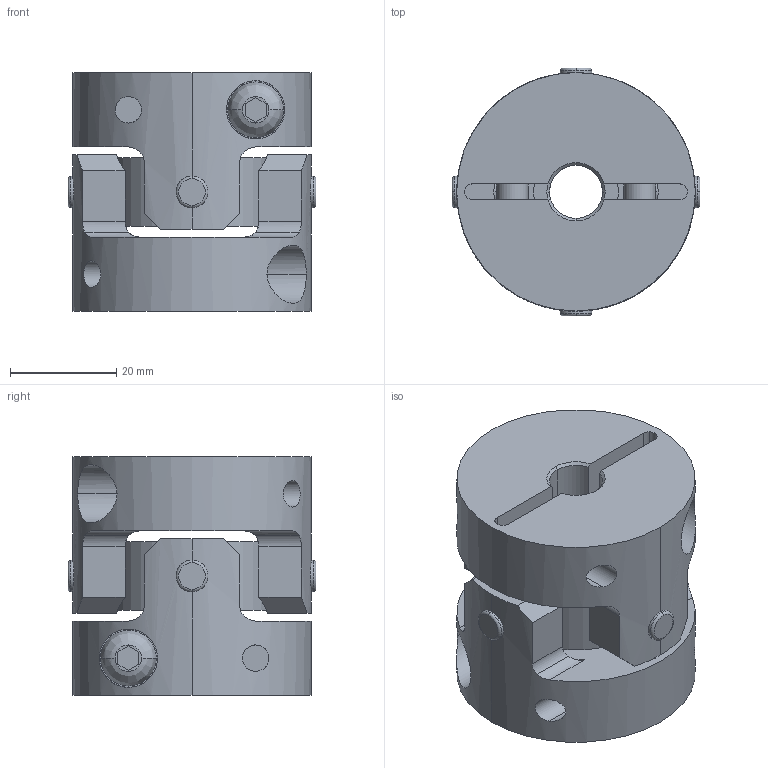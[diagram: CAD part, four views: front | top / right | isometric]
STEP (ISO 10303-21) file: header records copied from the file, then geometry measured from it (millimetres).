
FILE_DESCRIPTION((''),'2;1');
FILE_NAME('UA-45C-10×10.stp','2013-05-22T10:26:50',(''),(''),'AutoCAD STEP 2000i','AutoCAD 2000i',', , ');
FILE_SCHEMA(('CONFIG_CONTROL_DESIGN'));
Length unit declared in the file: millimetre
Products named in the file (6): UA-45C-8×8; 忣兜1; UA-4502-D08-1; BTN-M6; UA-4502-D08; UA45-SEN
Assembly tree (6 placements, depth 3):
  UA-45C-8×8
    忣兜1
    UA-4502-D08-1
      BTN-M6
    UA-4502-D08
      BTN-M6
    UA45-SEN
Bounding box: 46.73 x 46.73 x 45 mm (x, y, z)
Volume: 51072.7 mm3; surface area: 20325.6 mm2
Topology: 1 solids, 1 shells, 206 faces, 554 edges, 364 vertices
Faces by surface type: cylinder 96, plane 78, cone 16, bspline 8, torus 8
Entity records: 8523 total; most frequent: CARTESIAN_POINT 3207, ORIENTED_EDGE 1108, DIRECTION 1064, EDGE_CURVE 554, AXIS2_PLACEMENT_3D 409, VERTEX_POINT 364, VECTOR 246, LINE 246
